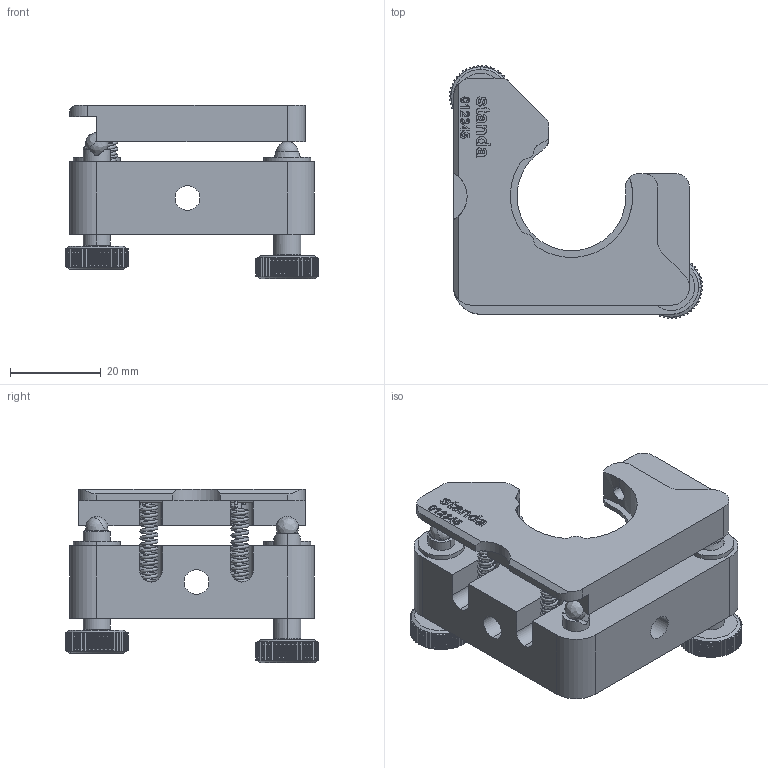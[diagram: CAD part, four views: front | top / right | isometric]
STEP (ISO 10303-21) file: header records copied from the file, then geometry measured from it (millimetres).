
FILE_DESCRIPTION (( 'STEP AP203' ), '1' );
FILE_NAME ('5F21-1.STEP', '2010-01-04T12:28:02', ( 'Darius' ), ( '' ), 'SwSTEP 2.0', 'SolidWorks 2003240', '' );
FILE_SCHEMA (( 'CONFIG_CONTROL_DESIGN' ));
Products named in the file (1): 5F21-1
Bounding box: 55.79 x 55.79 x 38.21 mm (x, y, z)
Volume: 27933.7 mm3; surface area: 13380.5 mm2
Topology: 1 solids, 1 shells, 1307 faces, 3797 edges, 2520 vertices
Faces by surface type: cylinder 530, plane 441, bspline 290, cone 46
Entity records: 63885 total; most frequent: CARTESIAN_POINT 33140, ORIENTED_EDGE 7568, DIRECTION 4575, EDGE_CURVE 3784, VERTEX_POINT 2520, B_SPLINE_CURVE_WITH_KNOTS 1711, LINE 1589, VECTOR 1589
